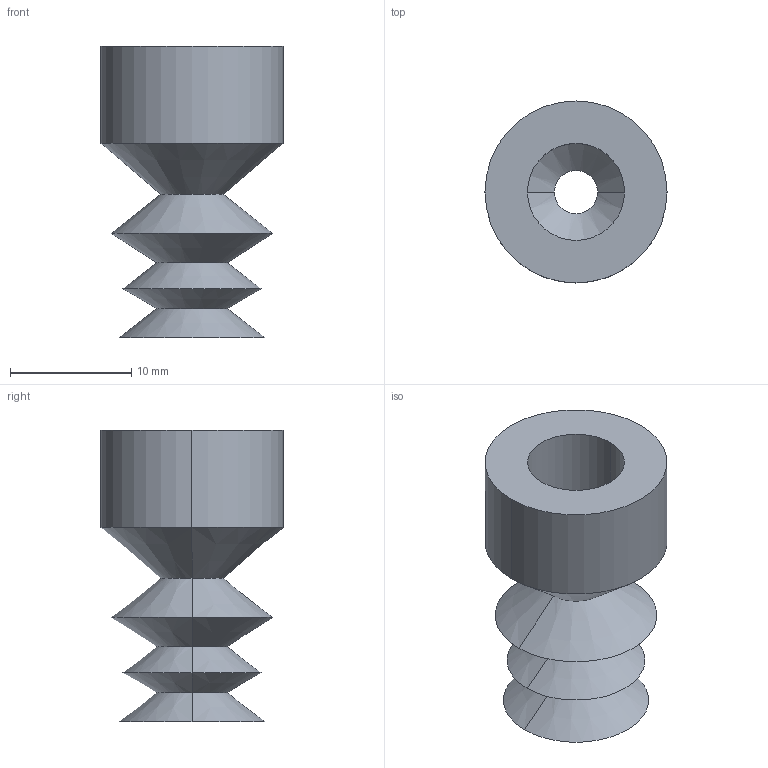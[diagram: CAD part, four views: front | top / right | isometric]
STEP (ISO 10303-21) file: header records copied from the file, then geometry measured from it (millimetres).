
FILE_DESCRIPTION (( 'STEP AP214' ), '1' );
FILE_NAME ('VSH3-M12.STEP', '2019-11-14T01:01:32', ( '微软用户' ), ( '微软中国' ), 'SwSTEP 2.0', 'SolidWorks 2016', '' );
FILE_SCHEMA (( 'AUTOMOTIVE_DESIGN' ));
Length unit declared in the file: millimetre
Products named in the file (1): VSH3-M12
Bounding box: 15 x 15 x 24 mm (x, y, z)
Volume: 1207.2 mm3; surface area: 2294.8 mm2
Topology: 1 solids, 1 shells, 36 faces, 72 edges, 40 vertices
Faces by surface type: cone 24, cylinder 8, plane 4
Entity records: 962 total; most frequent: DIRECTION 186, CARTESIAN_POINT 149, ORIENTED_EDGE 144, AXIS2_PLACEMENT_3D 77, EDGE_CURVE 72, EDGE_LOOP 40, VERTEX_POINT 40, CIRCLE 40
